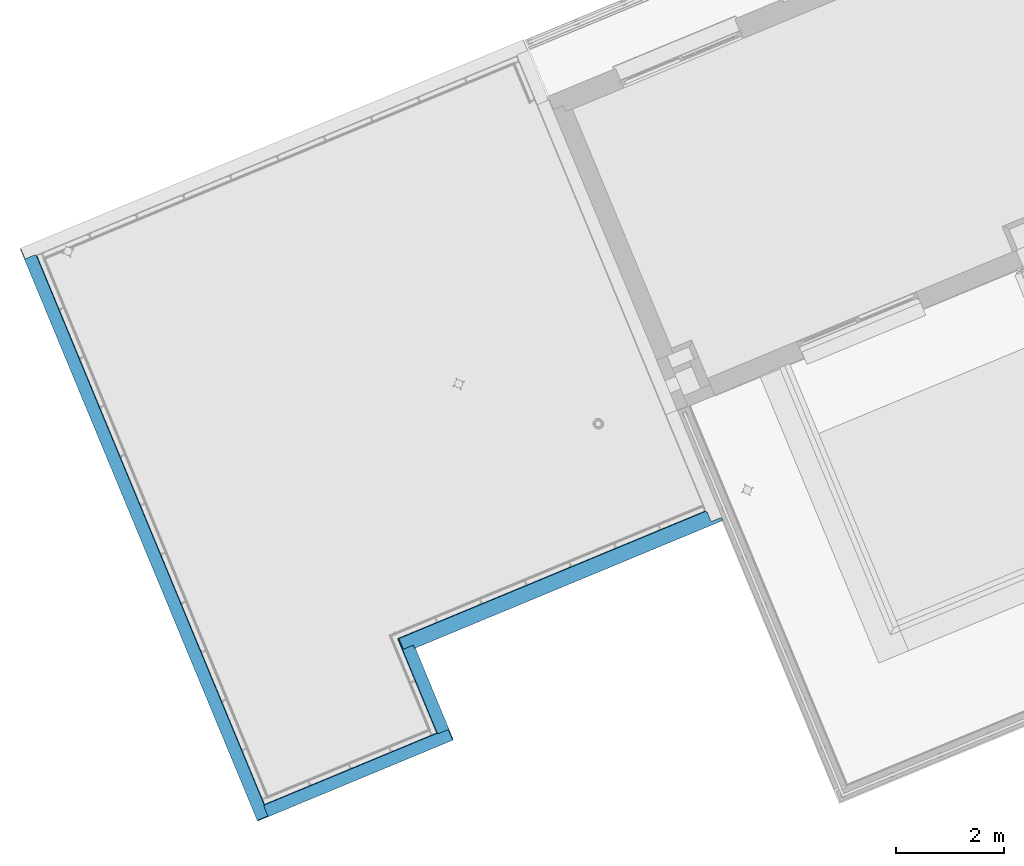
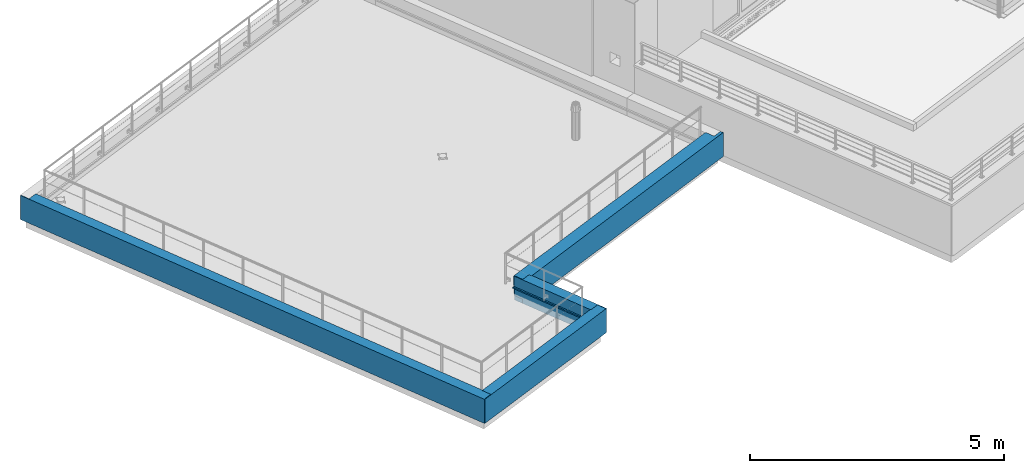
# One storey, part 18 of 62: 4 walls.
"""IFC2X3 building model written with IfcOpenShell, lengths in metres."""

from ifc_helpers import new_model, entity, si_unit, converted_unit, derived_unit, money_unit, direction, frame, origin_with_axes, place, context, subcontext, project, spatial, faceted_brep, material, material_list, type_object, element, save


model = new_model("IFC2X3")

# Units and contexts
model_context = context("Model", 3, precision=1e-05, world=origin_with_axes(), true_north=direction((0.0, 1.0)))
body_context = subcontext(model_context, "Body", "Model", "MODEL_VIEW")
ifc_project = project(units=[si_unit("LENGTHUNIT", "METRE"), si_unit("AREAUNIT", "SQUARE_METRE"), si_unit("VOLUMEUNIT", "CUBIC_METRE"), converted_unit("PLANEANGLEUNIT", "DEGREE", entity("IfcPlaneAngleMeasure", 0.0174532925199), si_unit("PLANEANGLEUNIT", "RADIAN"), dimensions=[0, 0, 0, 0, 0, 0, 0]), si_unit("SOLIDANGLEUNIT", "STERADIAN"), money_unit("EUR"), converted_unit("TIMEUNIT", "Year", entity("IfcTimeMeasure", 31556926.0), si_unit("TIMEUNIT", "SECOND"), dimensions=[0, 0, 1, 0, 0, 0, 0]), si_unit("MASSUNIT", "GRAM", prefix="KILO"), si_unit("THERMODYNAMICTEMPERATUREUNIT", "DEGREE_CELSIUS"), si_unit("LUMINOUSINTENSITYUNIT", "LUMEN"), si_unit("ENERGYUNIT", "JOULE", prefix="MEGA"), derived_unit("THERMALCONDUCTANCEUNIT", [(si_unit("POWERUNIT", "WATT"), 1), (si_unit("LENGTHUNIT", "METRE"), -1), (si_unit("THERMODYNAMICTEMPERATUREUNIT", "KELVIN"), -1)]), derived_unit("SPECIFICHEATCAPACITYUNIT", [(si_unit("ENERGYUNIT", "JOULE"), 1), (si_unit("MASSUNIT", "GRAM", prefix="KILO"), -1), (si_unit("THERMODYNAMICTEMPERATUREUNIT", "KELVIN"), -1)]), derived_unit("MASSDENSITYUNIT", [(si_unit("MASSUNIT", "GRAM", prefix="KILO"), 1), (si_unit("VOLUMEUNIT", "CUBIC_METRE"), -1)])], contexts=[model_context])

# Site, building, storey
site_placement = place(None, origin_with_axes())
site = spatial("IfcSite", under=ifc_project, at=site_placement, Name="Site", CompositionType="ELEMENT")
building_placement = place(site_placement, origin_with_axes())
building = spatial("IfcBuilding", under=site, at=building_placement, Name="Bâtiment", CompositionType="ELEMENT")
storey_placement = place(building_placement, frame((0.0, 0.0, 8.16), z_axis=(0.0, 0.0, 1.0), x_axis=(1.0, 0.0, 0.0)))
storey = spatial("IfcBuildingStorey", under=building, at=storey_placement, Name="R+3", CompositionType="ELEMENT", Elevation=8.16)

# Walls
ifc_material_1 = material(Name="Métal - Aluminium")
ifc_material_2 = material(Name="Finition ext - Crépis")
ifc_material_3 = material(Name="Etanchéité - Bitume")
ifc_material_4 = material(Name="Béton")
ifc_material_list_1 = material_list([ifc_material_1, ifc_material_2, ifc_material_3, ifc_material_4, ifc_material_2])
wall_type_1 = type_object("IfcWallType", Name="Acrotère pour plancher 21 isolée 242 x 580", PredefinedType="USERDEFINED")
wall_1_placement = place(storey_placement, frame((-30.9825111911, -28.5909034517, 0.0), z_axis=(0.0, 0.0, 1.0), x_axis=(0.923701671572, 0.383112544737, 0.0)))
element("IfcWall", 1, at=wall_1_placement, inside=storey, type_object=wall_type_1, material=ifc_material_list_1, Name="Muret béton 20cm", ObjectType="PARAPET", context=body_context, shape_type="Brep", body=[
    faceted_brep([(3.72992819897, 0.215, 0.318976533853), (3.72992819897, 0.215, 0.357041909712), (0.216045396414, 0.215, 0.357041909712), (0.216045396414, 0.215, 0.320023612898), (0.219574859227, 0.215, 0.318976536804), (3.72992819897, 0.216045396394, 0.357041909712), (3.72992819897, 0.219574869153, 0.318976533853), (3.72992819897, 0.216045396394, 0.320023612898), (0.216045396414, 0.216045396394, 0.357041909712), (0.216045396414, 0.216045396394, 0.320023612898), (0.219574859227, 0.219574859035, 0.318976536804), (3.70367762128, 0.241250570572, 0.311101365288), (0.24248465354, 0.237655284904, 0.312179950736), (0.24248465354, 0.241250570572, 0.311101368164), (3.70367762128, 0.242484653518, 0.311101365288), (3.70727290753, 0.242484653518, 0.312179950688), (0.242484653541, 0.242484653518, 0.312179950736), (0.242484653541, 0.242484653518, 0.309999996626), (0.24248465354, 0.241250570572, 0.309999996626), (3.70367762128, 0.241250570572, 0.310000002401), (0.24248465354, 0.241250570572, 0.282882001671), (3.70367762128, 0.241250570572, 0.282881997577), (3.70367762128, 0.242484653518, 0.310000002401), (3.70367762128, 0.242484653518, 0.282881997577), (0.242484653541, 0.242484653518, 0.282882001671)], [[[0, 1, 2, 3, 4]], [[5, 1, 0, 6, 7]], [[1, 5, 8, 2]], [[3, 2, 8, 9]], [[10, 4, 3, 9]], [[11, 0, 4, 12, 13]], [[6, 0, 11, 14, 15]], [[7, 6, 15, 16, 10, 9]], [[5, 7, 9, 8]], [[4, 10, 16, 12]], [[13, 12, 16, 17, 18]], [[19, 11, 13, 18, 20, 21]], [[11, 19, 22, 14]], [[14, 22, 23, 24, 17, 16, 15]], [[18, 17, 24, 20]], [[23, 21, 20, 24]], [[22, 19, 21, 23]]]),
    faceted_brep([(3.72992819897, 0.215000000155, 0.357041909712), (3.72992819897, 0.215000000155, 0.580000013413), (0.229999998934, 0.215000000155, 0.580000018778), (0.229999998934, 0.215000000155, 0.357041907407), (3.72992819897, 0.229999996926, 0.580000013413), (3.72992819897, 0.216045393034, 0.357041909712), (3.72992819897, 0.229999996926, 0.357041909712), (0.229999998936, 0.229999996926, 0.580000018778), (0.229999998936, 0.229999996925, 0.357041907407), (0.229999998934, 0.216045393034, 0.357041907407)], [[[0, 1, 2, 3]], [[4, 1, 0, 5, 6]], [[1, 4, 7, 2]], [[3, 2, 7, 8, 9]], [[5, 0, 3, 9]], [[6, 5, 9, 8]], [[4, 6, 8, 7]]]),
    faceted_brep([(0.224999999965, 0.215000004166, 0.11), (3.72992819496, 0.215000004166, 0.11), (3.72992819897, 0.215000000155, 0.310000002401), (0.224999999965, 0.215000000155, 0.309999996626), (3.72992819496, 0.224999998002, 0.11), (0.224999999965, 0.224999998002, 0.11), (3.72992819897, 0.224999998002, 0.310000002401), (0.224999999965, 0.224999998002, 0.309999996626)], [[[0, 1, 2, 3]], [[4, 1, 0, 5]], [[1, 4, 6, 2]], [[3, 2, 6, 7]], [[5, 0, 3, 7]], [[4, 5, 7, 6]]]),
    faceted_brep([(3.92992820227, 0.015, 0.580000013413), (0.215000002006, 0.015, 0.580000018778), (0.215000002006, 0.015, 0.318976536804), (0.215000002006, 0.015, 0.0), (3.92992820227, 0.015, 0.0), (3.92992820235, 0.215000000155, 0.580000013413), (0.215000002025, 0.215000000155, 0.580000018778), (0.215000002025, 0.215000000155, 0.318976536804), (0.215000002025, 0.215000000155, 0.309999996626), (0.215000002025, 0.215000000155, 0.0999999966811), (0.215000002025, 0.215000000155, 0.0), (3.92992820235, 0.215000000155, 0.0), (3.92992820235, 0.215000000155, 0.0999999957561), (3.92992820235, 0.215000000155, 0.310000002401), (3.92992820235, 0.215000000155, 0.318976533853)], [[[0, 1, 2, 3, 4]], [[1, 0, 5, 6]], [[2, 1, 6, 7]], [[3, 2, 7, 8, 9, 10]], [[10, 11, 4, 3]], [[11, 12, 13, 14, 5, 0, 4]], [[6, 5, 14, 7]], [[7, 14, 13, 8]], [[8, 13, 12, 9]], [[9, 12, 11, 10]]]),
    faceted_brep([(3.9449281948, 0.0149999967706, 0.580000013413), (0.0149999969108, 0.0149999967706, 0.580000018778), (0.0149999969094, 0.0, 0.580000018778), (3.94492819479, 0.0, 0.580000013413), (3.9449281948, 0.0149999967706, 0.0), (0.0149999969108, 0.0149999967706, 0.0), (0.0149999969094, 0.0, 0.0), (3.94492819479, 0.0, 0.0)], [[[0, 1, 2, 3]], [[1, 0, 4, 5]], [[6, 2, 1, 5]], [[3, 2, 6, 7]], [[7, 4, 0, 3]], [[7, 6, 5, 4]]]),
])
wall_2_placement = place(storey_placement, frame((-27.3385744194, -27.0795519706, 0.0), z_axis=(0.0, 0.0, 1.0), x_axis=(-0.383112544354, 0.923701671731, 0.0)))
element("IfcWall", 2, at=wall_2_placement, inside=storey, type_object=wall_type_1, material=ifc_material_list_1, Name="Muret béton 20cm", ObjectType="PARAPET", context=body_context, shape_type="Brep", body=[
    faceted_brep([(0.216045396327, 0.216045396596, 0.357041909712), (0.216045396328, 0.215, 0.357041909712), (2.11499999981, 0.215, 0.357041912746), (2.11499999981, 0.216045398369, 0.357041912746), (0.216045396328, 0.215, 0.32002361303), (0.216045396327, 0.216045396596, 0.32002361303), (0.219574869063, 0.215, 0.318976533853), (2.11499999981, 0.215, 0.318976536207), (2.11499999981, 0.219574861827, 0.318976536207), (2.11499999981, 0.216045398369, 0.320023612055), (0.219574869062, 0.219574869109, 0.318976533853), (0.242484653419, 0.237655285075, 0.312179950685), (0.242484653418, 0.241250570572, 0.311101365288), (2.14125057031, 0.241250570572, 0.311101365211), (2.14125057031, 0.242484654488, 0.311101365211), (2.13765527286, 0.242484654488, 0.312179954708), (0.242484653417, 0.242484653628, 0.312179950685), (0.242484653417, 0.242484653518, 0.310000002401), (0.242484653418, 0.241250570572, 0.310000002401), (0.242484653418, 0.241250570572, 0.282882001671), (2.14125057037, 0.241250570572, 0.282881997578), (2.14125057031, 0.241250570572, 0.30999999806), (2.14125057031, 0.242484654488, 0.30999999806), (2.14125057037, 0.242484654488, 0.282881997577), (0.242484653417, 0.242484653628, 0.282882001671)], [[[0, 1, 2, 3]], [[4, 1, 0, 5]], [[4, 6, 7, 2, 1]], [[3, 2, 7, 8, 9]], [[5, 0, 3, 9]], [[6, 4, 5, 10]], [[11, 12, 13, 7, 6]], [[8, 7, 13, 14, 15]], [[10, 5, 9, 8, 15, 16]], [[6, 10, 16, 11]], [[12, 11, 16, 17, 18]], [[12, 18, 19, 20, 21, 13]], [[13, 21, 22, 14]], [[17, 16, 15, 14, 22, 23, 24]], [[18, 17, 24, 19]], [[19, 24, 23, 20]], [[22, 21, 20, 23]]]),
    faceted_brep([(0.22999999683, 0.229999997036, 0.580000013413), (0.229999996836, 0.215000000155, 0.580000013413), (2.11500000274, 0.215000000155, 0.580000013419), (2.11500000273, 0.22999999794, 0.580000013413), (0.229999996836, 0.215000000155, 0.357041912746), (0.22999999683, 0.229999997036, 0.357041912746), (0.229999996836, 0.216045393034, 0.357041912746), (2.11500000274, 0.215000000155, 0.357041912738), (2.11500000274, 0.216045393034, 0.357041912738), (2.11500000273, 0.22999999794, 0.357041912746)], [[[0, 1, 2, 3]], [[4, 1, 0, 5, 6]], [[1, 4, 7, 2]], [[3, 2, 7, 8, 9]], [[5, 0, 3, 9]], [[6, 5, 9, 8]], [[4, 6, 8, 7]]]),
    faceted_brep([(0.224999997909, 0.224999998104, 0.11), (0.224999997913, 0.215000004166, 0.11), (0.224999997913, 0.215000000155, 0.282881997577), (0.224999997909, 0.224999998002, 0.282881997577), (2.11500000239, 0.215000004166, 0.11), (2.11500000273, 0.224999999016, 0.11), (2.11500000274, 0.215000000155, 0.282881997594), (2.11500000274, 0.215000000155, 0.30999999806), (0.224999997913, 0.215000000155, 0.310000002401), (0.224999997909, 0.224999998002, 0.310000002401), (2.11500000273, 0.224999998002, 0.30999999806), (2.11500000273, 0.224999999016, 0.282881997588)], [[[0, 1, 2, 3]], [[4, 1, 0, 5]], [[1, 4, 6, 7, 8, 2]], [[3, 2, 8, 9]], [[5, 0, 3, 9, 10, 11]], [[4, 5, 11, 6]], [[11, 10, 7, 6]], [[10, 9, 8, 7]]]),
    faceted_brep([(1.91499999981, 0.215000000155, 0.580000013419), (0.215000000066, 0.215000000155, 0.580000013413), (0.215000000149, 0.015, 0.580000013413), (1.91499999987, 0.015, 0.580000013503), (0.215000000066, 0.215000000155, 0.318976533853), (0.215000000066, 0.215000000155, 0.357041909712), (1.91499999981, 0.215000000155, 0.357041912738), (1.91499999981, 0.215000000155, 0.318976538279), (0.215000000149, 0.015, 0.357041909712), (0.215000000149, 0.015, 0.318976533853), (0.215000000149, 0.015, 0.310000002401), (0.215000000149, 0.015, 0.282881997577), (0.215000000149, 0.015, 0.0999999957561), (0.215000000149, 0.015, 0.0), (1.91499999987, 0.015, 0.0), (1.91499999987, 0.015, 0.0999999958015), (1.91499999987, 0.015, 0.282881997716), (1.91499999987, 0.015, 0.30999999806), (1.91499999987, 0.015, 0.318976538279), (1.91499999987, 0.015, 0.357041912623), (1.91499999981, 0.215000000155, 0.30999999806), (0.215000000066, 0.215000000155, 0.310000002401), (0.215000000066, 0.215000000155, 0.282881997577), (0.215000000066, 0.215000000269, 0.0999999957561), (0.215000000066, 0.215000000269, 0.0), (1.91499999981, 0.215000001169, 0.0), (1.91499999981, 0.215000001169, 0.0999999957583), (1.91499999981, 0.215000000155, 0.282881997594)], [[[0, 1, 2, 3]], [[4, 5, 1, 0, 6, 7]], [[5, 8, 2, 1]], [[3, 2, 8, 9, 10, 11, 12, 13, 14, 15, 16, 17, 18, 19]], [[6, 0, 3, 19]], [[9, 8, 5, 4]], [[7, 6, 19, 18]], [[20, 21, 4, 7]], [[10, 9, 4, 21]], [[11, 10, 21, 22]], [[12, 11, 22, 23]], [[13, 12, 23, 24]], [[14, 13, 24, 25]], [[25, 26, 15, 14]], [[26, 27, 16, 15]], [[27, 20, 17, 16]], [[20, 7, 18, 17]], [[23, 22, 21, 20, 27, 26]], [[25, 24, 23, 26]]]),
    faceted_brep([(1.84999999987, 0.0149999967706, 0.580000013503), (0.0149999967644, 0.0149999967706, 0.580000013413), (0.0149999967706, 0.0, 0.580000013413), (1.84999999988, 0.0, 0.580000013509), (0.0149999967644, 0.0149999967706, 0.318976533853), (0.0149999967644, 0.0149999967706, 0.357041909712), (1.84999999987, 0.0149999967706, 0.357041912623), (1.84999999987, 0.0149999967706, 0.318976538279), (1.84999999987, 0.0149999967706, 0.30999999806), (1.84999999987, 0.0149999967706, 0.282881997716), (1.84999999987, 0.0149999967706, 0.0999999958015), (1.84999999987, 0.0149999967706, 0.0), (0.0149999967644, 0.0149999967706, 0.0), (0.0149999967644, 0.0149999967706, 0.0999999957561), (0.0149999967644, 0.0149999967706, 0.282881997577), (0.0149999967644, 0.0149999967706, 0.310000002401), (0.0149999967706, 0.0, 0.357041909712), (0.0149999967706, 0.0, 0.318976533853), (0.0149999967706, 0.0, 0.310000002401), (0.0149999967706, 0.0, 0.282881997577), (0.0149999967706, 0.0, 0.0999999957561), (0.0149999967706, 0.0, 0.0), (1.84999999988, 0.0, 0.0), (1.84999999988, 0.0, 0.0999999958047), (1.84999999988, 0.0, 0.282881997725), (1.84999999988, 0.0, 0.30999999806), (1.84999999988, 0.0, 0.318976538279), (1.84999999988, 0.0, 0.357041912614)], [[[0, 1, 2, 3]], [[4, 5, 1, 0, 6, 7, 8, 9, 10, 11, 12, 13, 14, 15]], [[5, 16, 2, 1]], [[3, 2, 16, 17, 18, 19, 20, 21, 22, 23, 24, 25, 26, 27]], [[6, 0, 3, 27]], [[17, 16, 5, 4]], [[7, 6, 27, 26]], [[8, 7, 26, 25]], [[9, 8, 25, 24]], [[10, 9, 24, 23]], [[11, 10, 23, 22]], [[22, 21, 12, 11]], [[21, 20, 13, 12]], [[20, 19, 14, 13]], [[19, 18, 15, 14]], [[18, 17, 4, 15]]]),
])
wall_3_placement = place(storey_placement, frame((-35.4006368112, -17.9386027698, 0.0), z_axis=(0.0, 0.0, 1.0), x_axis=(0.383112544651, -0.923701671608, 0.0)))
element("IfcWall", 3, at=wall_3_placement, inside=storey, type_object=wall_type_1, material=ifc_material_list_1, Name="Muret béton 20cm", ObjectType="PARAPET", context=body_context, shape_type="Brep", body=[
    faceted_brep([(11.317187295, 0.216045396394, 0.320023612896), (11.317187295, 0.219574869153, 0.318976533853), (11.2945320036, 0.242484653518, 0.312179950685), (0.242484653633, 0.242484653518, 0.312179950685), (0.219574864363, 0.21957486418, 0.318976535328), (0.2160453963, 0.216045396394, 0.320023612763), (11.317187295, 0.215, 0.318976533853), (11.317187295, 0.216045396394, 0.357041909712), (11.317187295, 0.215, 0.357041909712), (11.2909367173, 0.241250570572, 0.311101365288), (11.2909367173, 0.242484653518, 0.311101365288), (11.2909367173, 0.242484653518, 0.310000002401), (11.2909367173, 0.242484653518, 0.282881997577), (0.242484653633, 0.242484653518, 0.282882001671), (0.242484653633, 0.242484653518, 0.310000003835), (0.219574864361, 0.215, 0.318976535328), (0.242484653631, 0.237655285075, 0.312179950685), (0.2160453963, 0.215, 0.320023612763), (0.2160453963, 0.216045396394, 0.357041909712), (0.2160453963, 0.215, 0.357041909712), (0.242484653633, 0.241250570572, 0.311101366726), (11.2909367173, 0.241250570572, 0.310000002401), (11.2909367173, 0.241250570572, 0.282881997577), (0.242484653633, 0.241250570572, 0.282882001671), (0.242484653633, 0.241250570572, 0.310000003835)], [[[0, 1, 2, 3, 4, 5]], [[6, 1, 0, 7, 8]], [[1, 6, 9, 10, 2]], [[10, 11, 12, 13, 14, 3, 2]], [[15, 4, 3, 16]], [[5, 4, 15, 17]], [[7, 0, 5, 18]], [[8, 7, 18, 19]], [[6, 8, 19, 17, 15]], [[9, 6, 15, 16, 20]], [[11, 10, 9, 21]], [[11, 21, 22, 12]], [[12, 22, 23, 13]], [[24, 14, 13, 23]], [[3, 14, 24, 20, 16]], [[19, 18, 5, 17]], [[21, 9, 20, 24, 23, 22]]]),
    faceted_brep([(11.317187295, 0.215000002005, 0.580000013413), (11.317187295, 0.229999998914, 0.580000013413), (0.229999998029, 0.229999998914, 0.580000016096), (0.229999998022, 0.215000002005, 0.580000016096), (11.317187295, 0.229999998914, 0.357041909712), (11.317187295, 0.215000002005, 0.357041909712), (11.317187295, 0.216045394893, 0.357041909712), (0.229999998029, 0.229999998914, 0.357041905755), (0.229999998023, 0.216045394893, 0.357041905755), (0.229999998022, 0.215000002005, 0.357041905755)], [[[0, 1, 2, 3]], [[4, 1, 0, 5, 6]], [[1, 4, 7, 2]], [[3, 2, 7, 8, 9]], [[5, 0, 3, 9]], [[6, 5, 9, 8]], [[4, 6, 8, 7]]]),
    faceted_brep([(11.317187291, 0.215000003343, 0.11), (11.317187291, 0.224999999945, 0.11), (11.317187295, 0.224999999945, 0.310000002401), (11.317187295, 0.215000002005, 0.310000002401), (0.22499999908, 0.224999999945, 0.11), (0.224999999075, 0.214999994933, 0.11), (0.22499999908, 0.224999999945, 0.310000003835), (0.224999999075, 0.215000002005, 0.310000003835)], [[[0, 1, 2, 3]], [[4, 1, 0, 5]], [[1, 4, 6, 2]], [[7, 3, 2, 6]], [[5, 0, 3, 7]], [[4, 5, 7, 6]]]),
    faceted_brep([(0.215000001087, 0.015, 0.580000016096), (11.5171872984, 0.015, 0.580000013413), (11.5171872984, 0.215000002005, 0.580000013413), (0.215000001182, 0.215000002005, 0.580000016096), (0.215000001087, 0.015, 0.0999999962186), (0.215000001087, 0.015, 0.0), (11.5171872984, 0.015, 0.0), (11.5171872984, 0.215000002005, 0.0), (11.5171872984, 0.215000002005, 0.0999999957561), (11.5171872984, 0.215000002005, 0.310000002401), (11.5171872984, 0.215000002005, 0.318976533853), (0.215000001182, 0.215000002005, 0.318976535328), (0.215000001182, 0.215000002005, 0.310000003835), (0.215000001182, 0.215000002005, 0.0999999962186), (0.215000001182, 0.215000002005, 0.0)], [[[0, 1, 2, 3]], [[1, 0, 4, 5, 6]], [[7, 8, 9, 10, 2, 1, 6]], [[3, 2, 10, 11]], [[4, 0, 3, 11, 12, 13]], [[5, 4, 13, 14]], [[14, 7, 6, 5]], [[13, 8, 7, 14]], [[12, 9, 8, 13]], [[11, 10, 9, 12]]]),
    faceted_brep([(0.0149999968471, 0.0149999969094, 0.580000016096), (11.532187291, 0.0149999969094, 0.580000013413), (11.532187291, 0.0149999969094, 0.0), (0.0149999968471, 0.0149999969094, 0.0), (0.01499999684, 0.0, 0.580000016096), (11.532187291, 0.0, 0.580000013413), (11.532187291, 0.0, 0.0), (0.01499999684, 0.0, 0.0)], [[[0, 1, 2, 3]], [[1, 0, 4, 5]], [[5, 6, 2, 1]], [[6, 7, 3, 2]], [[7, 4, 0, 3]], [[5, 4, 7, 6]]]),
])
ifc_material_5 = material(Name="Bois - Lattage")
ifc_material_6 = material(Name="Finition ext - Bardage bois")
ifc_material_list_2 = material_list([ifc_material_1, ifc_material_2, ifc_material_3, ifc_material_4, ifc_material_5, ifc_material_6])
wall_type_2 = type_object("IfcWallType", Name="Acrotère pour plancher 21 isolée BARDAGE BOIS 292 x 580", PredefinedType="USERDEFINED")
wall_4_placement = place(storey_placement, frame((-28.0473326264, -25.370703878, 0.0), z_axis=(0.0, 0.0, 1.0), x_axis=(0.923701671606, 0.383112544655, 0.0)))
element("IfcWall", 4, at=wall_4_placement, inside=storey, type_object=wall_type_2, material=ifc_material_list_2, Name="Muret béton 20cm", ObjectType="PARAPET", context=body_context, shape_type="Brep", body=[
    faceted_brep([(5.97851352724, 0.265, 0.318976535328), (5.9820429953, 0.265, 0.320023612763), (5.9820429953, 0.265, 0.357041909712), (-0.216045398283, 0.265, 0.357041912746), (-0.216045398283, 0.265, 0.320023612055), (-0.219574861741, 0.265, 0.318976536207), (5.97851352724, 0.26957487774, 0.318976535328), (5.9820429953, 0.266045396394, 0.320023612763), (5.9820429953, 0.266045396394, 0.357041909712), (-0.216045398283, 0.266045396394, 0.357041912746), (-0.216045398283, 0.266045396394, 0.320023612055), (-0.242484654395, 0.287655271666, 0.312179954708), (-0.242484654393, 0.292484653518, 0.312179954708), (5.95560373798, 0.287655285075, 0.312179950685), (-0.242484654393, 0.291250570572, 0.311101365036), (5.95560373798, 0.291250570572, 0.311101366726), (5.95560373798, 0.292484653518, 0.312179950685), (-0.242484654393, 0.291250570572, 0.282881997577), (-0.242484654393, 0.292484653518, 0.282881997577), (5.95560373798, 0.291250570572, 0.310000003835), (5.95560373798, 0.291250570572, 0.282882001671), (5.95560373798, 0.292484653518, 0.310000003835), (5.95560373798, 0.292484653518, 0.282882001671)], [[[0, 1, 2, 3, 4, 5]], [[1, 0, 6, 7]], [[8, 2, 1, 7]], [[2, 8, 9, 3]], [[10, 4, 3, 9]], [[11, 5, 4, 10, 12]], [[13, 0, 5, 11, 14, 15]], [[6, 0, 13, 16]], [[7, 6, 16, 12, 10]], [[8, 7, 10, 9]], [[17, 14, 11, 12, 18]], [[19, 15, 14, 17, 20]], [[13, 15, 19, 21, 16]], [[16, 21, 22, 18, 12]], [[22, 20, 17, 18]], [[21, 19, 20, 22]]]),
    faceted_brep([(5.96808839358, 0.26500000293, 0.357041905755), (5.96808839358, 0.26500000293, 0.580000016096), (-0.229999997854, 0.26500000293, 0.580000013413), (-0.229999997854, 0.26500000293, 0.357041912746), (5.96808839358, 0.279999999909, 0.580000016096), (5.96808839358, 0.266045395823, 0.357041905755), (5.96808839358, 0.279999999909, 0.357041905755), (-0.229999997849, 0.279999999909, 0.580000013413), (-0.229999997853, 0.266045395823, 0.357041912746), (-0.229999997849, 0.279999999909, 0.357041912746)], [[[0, 1, 2, 3]], [[4, 1, 0, 5, 6]], [[1, 4, 7, 2]], [[8, 3, 2, 7, 9]], [[5, 0, 3, 8]], [[6, 5, 8, 9]], [[4, 6, 9, 7]]]),
    faceted_brep([(-0.224999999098, 0.26500000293, 0.11), (-0.21500000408, 0.265000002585, 0.11), (5.97308839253, 0.265000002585, 0.11), (5.97308839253, 0.26500000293, 0.282881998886), (5.97308839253, 0.26500000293, 0.310000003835), (-0.225000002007, 0.26500000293, 0.310000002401), (-0.225000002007, 0.26500000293, 0.282881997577), (5.97308839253, 0.275000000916, 0.11), (-0.224999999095, 0.275000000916, 0.11), (5.97308839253, 0.275000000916, 0.282881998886), (5.97308839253, 0.275000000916, 0.310000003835), (-0.225000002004, 0.275000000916, 0.310000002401), (-0.225000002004, 0.275000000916, 0.282881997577)], [[[0, 1, 2, 3, 4, 5, 6]], [[7, 2, 1, 0, 8]], [[2, 7, 9, 3]], [[9, 10, 4, 3]], [[10, 11, 5, 4]], [[12, 6, 5, 11]], [[8, 0, 6, 12]], [[7, 8, 12, 11, 10, 9]]]),
    faceted_brep([(5.98308839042, 0.26500000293, 0.580000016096), (-0.215000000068, 0.26500000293, 0.580000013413), (-0.215000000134, 0.065, 0.580000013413), (5.98308839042, 0.065, 0.580000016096), (-0.215000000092, 0.26500000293, 0.318976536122), (-0.215000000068, 0.26500000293, 0.357041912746), (5.98308839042, 0.26500000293, 0.357041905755), (5.98308839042, 0.26500000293, 0.318976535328), (-0.215000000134, 0.065, 0.357041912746), (-0.215000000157, 0.065, 0.318976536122), (-0.215000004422, 0.065, 0.310000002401), (-0.215000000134, 0.065, 0.282881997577), (-0.215000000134, 0.065, 0.0999999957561), (-0.215000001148, 0.065, 0.0), (5.98308839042, 0.065, 0.0), (5.98308839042, 0.065, 0.0999999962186), (5.98308839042, 0.065, 0.282881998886), (5.98308839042, 0.065, 0.310000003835), (5.98308839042, 0.065, 0.318976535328), (5.98308839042, 0.065, 0.357041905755), (5.98308839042, 0.26500000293, 0.310000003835), (-0.215000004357, 0.26500000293, 0.310000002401), (-0.215000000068, 0.26500000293, 0.282881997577), (-0.215000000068, 0.26500000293, 0.0999999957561), (-0.215000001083, 0.26500000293, 0.0), (5.98308839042, 0.26500000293, 0.0), (5.98308839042, 0.26500000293, 0.0999999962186), (5.98308839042, 0.26500000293, 0.282881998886)], [[[0, 1, 2, 3]], [[4, 5, 1, 0, 6, 7]], [[5, 8, 2, 1]], [[3, 2, 8, 9, 10, 11, 12, 13, 14, 15, 16, 17, 18, 19]], [[6, 0, 3, 19]], [[9, 8, 5, 4]], [[7, 6, 19, 18]], [[20, 21, 4, 7]], [[10, 9, 4, 21]], [[11, 10, 21, 22]], [[12, 11, 22, 23]], [[13, 12, 23, 24]], [[24, 25, 14, 13]], [[25, 26, 15, 14]], [[26, 27, 16, 15]], [[27, 20, 17, 16]], [[20, 7, 18, 17]], [[23, 22, 21, 20, 27, 26]], [[23, 26, 25, 24]]]),
    faceted_brep([(6.18308839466, 0.0650000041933, 0.580000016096), (-0.0149999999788, 0.0650000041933, 0.580000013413), (-0.0149999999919, 0.0250000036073, 0.580000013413), (6.18308839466, 0.0250000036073, 0.580000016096), (-0.0149999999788, 0.0650000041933, 0.318976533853), (-0.0149999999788, 0.0650000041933, 0.357041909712), (6.18308839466, 0.0650000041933, 0.357041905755), (6.18308839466, 0.0650000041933, 0.318976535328), (6.18308839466, 0.0650000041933, 0.310000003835), (6.18308839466, 0.0650000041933, 0.282881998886), (6.18308839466, 0.0650000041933, 0.0999999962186), (6.18308839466, 0.0650000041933, 0.0), (-0.0149999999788, 0.0650000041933, 0.0), (-0.0149999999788, 0.0650000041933, 0.0999999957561), (-0.0149999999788, 0.0650000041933, 0.282881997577), (-0.0149999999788, 0.0650000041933, 0.310000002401), (-0.0149999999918, 0.0250000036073, 0.357041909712), (-0.0149999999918, 0.0250000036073, 0.318976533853), (-0.0149999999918, 0.0250000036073, 0.310000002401), (-0.0149999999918, 0.0250000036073, 0.282881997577), (-0.0149999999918, 0.0250000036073, 0.0999999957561), (-0.0149999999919, 0.0250000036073, 0.0), (6.18308839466, 0.0250000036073, 0.0), (6.18308839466, 0.0250000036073, 0.0999999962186), (6.18308839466, 0.0250000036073, 0.282881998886), (6.18308839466, 0.0250000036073, 0.310000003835), (6.18308839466, 0.0250000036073, 0.318976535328), (6.18308839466, 0.0250000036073, 0.357041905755)], [[[0, 1, 2, 3]], [[4, 5, 1, 0, 6, 7, 8, 9, 10, 11, 12, 13, 14, 15]], [[5, 16, 2, 1]], [[3, 2, 16, 17, 18, 19, 20, 21, 22, 23, 24, 25, 26, 27]], [[6, 0, 3, 27]], [[17, 16, 5, 4]], [[7, 6, 27, 26]], [[8, 7, 26, 25]], [[9, 8, 25, 24]], [[10, 9, 24, 23]], [[11, 10, 23, 22]], [[22, 21, 12, 11]], [[21, 20, 13, 12]], [[20, 19, 14, 13]], [[19, 18, 15, 14]], [[18, 17, 4, 15]]]),
    faceted_brep([(6.19808839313, 0.025, 0.580000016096), (-0.0149999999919, 0.025, 0.580000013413), (-0.015, 0.0, 0.580000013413), (6.19808839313, 0.0, 0.580000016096), (-0.0149999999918, 0.025, 0.318976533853), (-0.0149999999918, 0.025, 0.357041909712), (6.19808839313, 0.025, 0.0), (-0.0149999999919, 0.025, 0.0), (-0.0149999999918, 0.025, 0.0999999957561), (-0.0149999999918, 0.025, 0.282881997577), (-0.0149999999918, 0.025, 0.310000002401), (-0.015, 0.0, 0.357041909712), (-0.015, 0.0, 0.318976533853), (-0.015, 0.0, 0.310000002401), (-0.015, 0.0, 0.282881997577), (-0.015, 0.0, 0.0999999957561), (-0.015, 0.0, 0.0), (6.19808839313, 0.0, 0.0)], [[[0, 1, 2, 3]], [[4, 5, 1, 0, 6, 7, 8, 9, 10]], [[5, 11, 2, 1]], [[3, 2, 11, 12, 13, 14, 15, 16, 17]], [[17, 6, 0, 3]], [[12, 11, 5, 4]], [[17, 16, 7, 6]], [[16, 15, 8, 7]], [[15, 14, 9, 8]], [[14, 13, 10, 9]], [[13, 12, 4, 10]]]),
])

save(model, "model.ifc")
